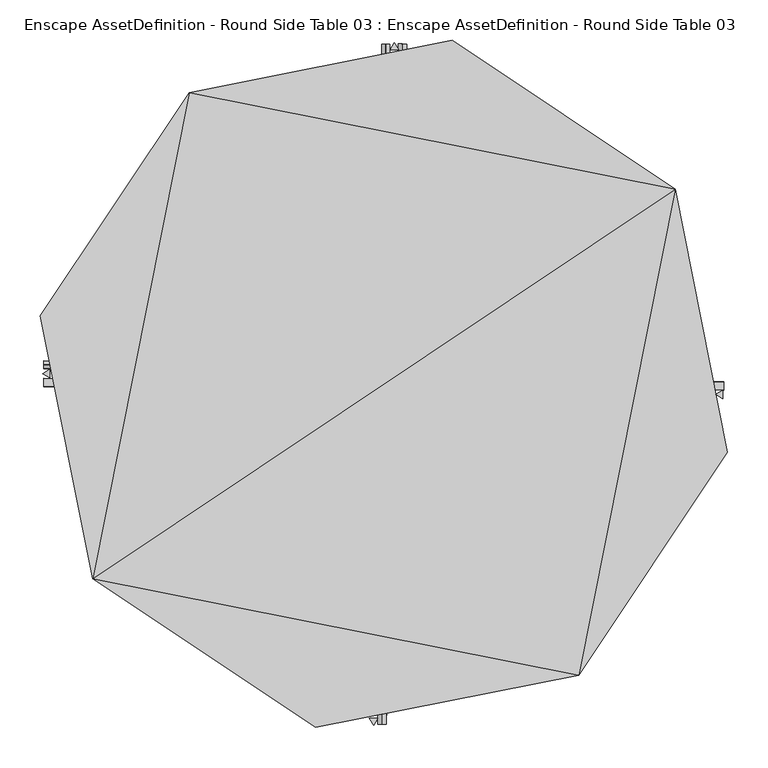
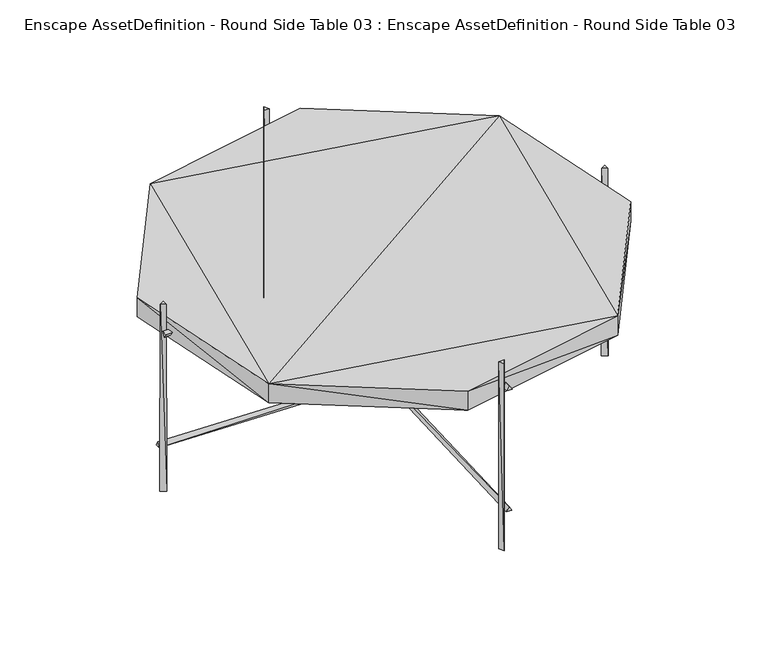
"""IFC4 building model written with IfcOpenShell, lengths in millimetres: geographic element geometry, Enscape AssetDefinition - Round Side Table 03 : Enscape AssetDefinition - Round Side Table 03."""

from ifc_helpers import new_model, si_unit, origin, place, context, project, spatial, faceted_brep, source, transform, mapped, element, save


def enscape_assetdefinition_round_side_table_03_enscape_90ca1cf3(model_context):
    return source(origin(), model_context, "Body", "Brep", [
        faceted_brep([(420.7910001, -2.112, 93.1289941), (-419.0790057, 18.6229981, 84.1289982), (420.6370115, -7.3059998, 84.1289982), (-418.9250171, 23.816999, 93.1289941), (-418.7709689, 29.0109981, 84.1289982), (420.9450185, 3.082, 84.1289982)], [[[0, 1, 2]], [[1, 0, 3]], [[4, 2, 1]], [[1, 3, 4]], [[2, 4, 5]], [[2, 5, 0]], [[5, 3, 0]], [[3, 5, 4]]]),
        faceted_brep([(18.8120008, 420.326978, 75.5179971), (-0.917, -419.5429981, 84.5180005), (24.0059998, 420.1729894, 84.5180005), (-6.1110002, -419.3889797, 75.5179971), (4.2770002, -419.6969867, 75.5179971), (29.2000007, 420.0179875, 75.5179971)], [[[0, 1, 2]], [[1, 0, 3]], [[4, 2, 1]], [[3, 4, 1]], [[2, 4, 5]], [[0, 2, 5]], [[5, 3, 0]], [[3, 5, 4]]]),
        faceted_brep([(-83.1549987, -424.320966, 311.0019863), (-358.4739864, -240.3589934, 349.999994), (-358.4739864, -240.3589934, 311.0019863), (-83.1549987, -424.320966, 349.999994), (-423.0729938, 84.4019949, 349.999994), (-239.109993, 359.7219884, 349.999994), (360.9699905, 240.3580099, 349.999994), (241.6059971, -359.7219884, 349.999994), (-423.0729938, 84.4019949, 311.0019863), (85.649997, 424.320966, 349.999994), (-239.109993, 359.7219884, 311.0019863), (85.649997, 424.320966, 311.0019863), (360.9699905, 240.3580099, 311.0019863), (425.5689979, -84.4030008, 349.999994), (425.5689979, -84.4030008, 311.0019863), (241.6059971, -359.7219884, 311.0019863)], [[[0, 1, 2]], [[1, 0, 3]], [[4, 2, 1]], [[1, 5, 4]], [[1, 6, 5]], [[1, 7, 6]], [[1, 3, 7]], [[2, 4, 8]], [[0, 2, 8]], [[5, 8, 4]], [[9, 10, 5]], [[8, 5, 10]], [[5, 6, 9]], [[11, 8, 10]], [[0, 8, 11]], [[10, 9, 11]], [[6, 11, 9]], [[11, 6, 12]], [[13, 12, 6]], [[6, 7, 13]], [[14, 11, 12]], [[0, 11, 14]], [[12, 13, 14]], [[7, 14, 13]], [[14, 7, 15]], [[0, 14, 15]], [[3, 15, 7]], [[15, 3, 0]]]),
        faceted_brep([(-5.9159999, -412.443012, 0.0), (-11.5459999, -421.6929972, 379.5000017), (-11.5459999, -422.1929908, 0.0), (-6.3489997, -412.6929641, 379.5000017), (-16.7420004, -412.6929641, 379.5000017), (-17.1750002, -412.443012, 0.0)], [[[0, 1, 2]], [[1, 0, 3]], [[4, 2, 1]], [[4, 1, 3]], [[2, 4, 5]], [[0, 2, 5]], [[5, 3, 0]], [[3, 5, 4]]]),
        faceted_brep([(-411.1949801, 7.1640001, 0.0), (-420.4449654, 12.7929999, 379.5000017), (-420.9450185, 12.7929999, 0.0), (-411.4449918, 7.5969999, 379.5000017), (-411.4449918, 17.9890003, 379.5000017), (-411.1949801, 18.4220001, 0.0)], [[[0, 1, 2]], [[1, 0, 3]], [[4, 2, 1]], [[4, 1, 3]], [[2, 4, 5]], [[0, 2, 5]], [[5, 3, 0]], [[3, 5, 4]]]),
        faceted_brep([(420.1900065, -7.1649998, 0.0), (419.9399948, -17.9900005, 379.5000017), (420.1900065, -18.4229985, 0.0), (419.9399948, -7.5980001, 379.5000017), (410.9400213, -12.7939992, 379.5000017), (410.4399681, -12.7939992, 0.0)], [[[0, 1, 2]], [[1, 0, 3]], [[4, 2, 1]], [[1, 3, 4]], [[2, 4, 5]], [[5, 0, 2]], [[5, 3, 0]], [[3, 5, 4]]]),
        faceted_brep([(8.4119998, 412.4419987, 0.0), (14.0409991, 421.6920137, 379.5000017), (14.0409991, 422.1919775, 0.0), (8.8450005, 412.6919806, 379.5000017), (19.2369986, 412.6919806, 379.5000017), (19.6700003, 412.4419987, 0.0)], [[[0, 1, 2]], [[1, 0, 3]], [[4, 2, 1]], [[4, 1, 3]], [[2, 4, 5]], [[0, 2, 5]], [[5, 3, 0]], [[3, 5, 4]]]),
        faceted_brep([(4.1780001, -420.5429852, 321.2960064), (3.481, 419.5419848, 330.29598), (-1.018, -420.5429852, 330.29598), (8.6769992, 419.5419848, 321.2960064), (-1.7159999, 419.5419848, 321.2960064), (-6.2139998, -420.5429852, 321.2960064)], [[[0, 1, 2]], [[1, 0, 3]], [[4, 2, 1]], [[3, 4, 1]], [[2, 4, 5]], [[0, 2, 5]], [[5, 3, 0]], [[3, 5, 4]]]),
        faceted_brep([(-419.2949831, -3.3479999, 327.2959888), (420.7899868, 2.8049999, 327.2959888), (-419.2949831, 7.0440001, 327.2959888), (420.7899868, -7.5869998, 327.2959888), (420.7899868, -2.3909998, 318.2959855), (-419.2949831, 1.848, 318.2959855)], [[[0, 1, 2]], [[1, 0, 3]], [[4, 2, 1]], [[4, 1, 3]], [[2, 4, 5]], [[0, 2, 5]], [[5, 3, 0]], [[3, 5, 4]]]),
    ])


if __name__ == "__main__":
    model = new_model("IFC4")
    model_context = context("Model", 3, world=origin())
    ifc_project = project(units=[si_unit("LENGTHUNIT", "METRE", prefix="MILLI")], contexts=[model_context])
    site = spatial("IfcSite", under=ifc_project)
    building = spatial("IfcBuilding", under=site)
    placement = place(None, origin())
    enscape_assetdefinition_round_side_table_03_enscape_shape = enscape_assetdefinition_round_side_table_03_enscape_90ca1cf3(model_context)
    element("IfcGeographicElement", 1, ObjectType="Enscape AssetDefinition - Round Side Table 03 : Enscape AssetDefinition - Round Side Table 03", at=placement, inside=building, context=model_context, shape_type="MappedRepresentation", body=[
        mapped(enscape_assetdefinition_round_side_table_03_enscape_shape, transform((0.0, 0.0, 0.0), x_axis=(1.0, 0.0, 0.0), y_axis=(0.0, 1.0, 0.0), z_axis=(0.0, 0.0, 1.0))),
    ])
    save(model, "model.ifc")
